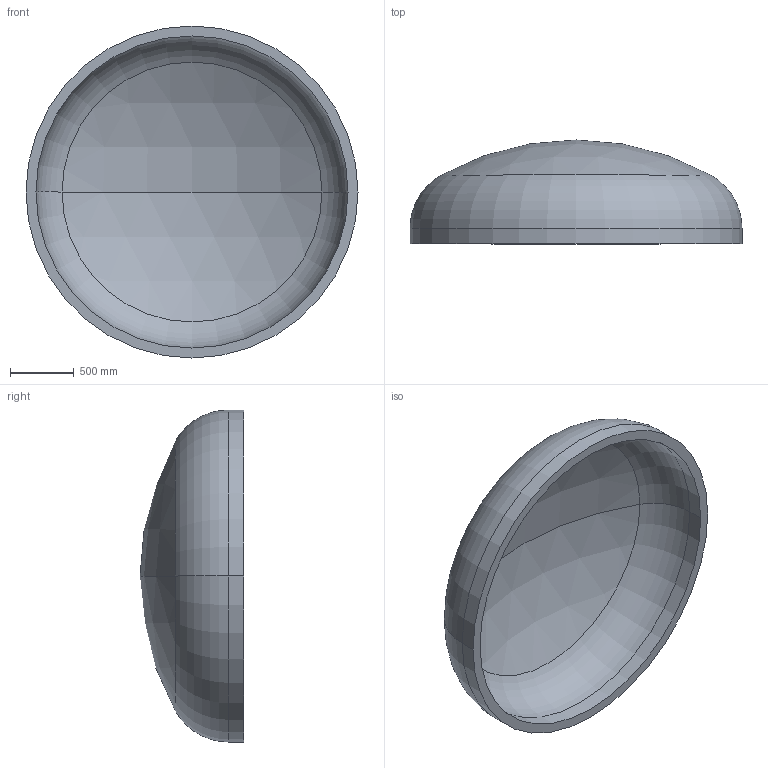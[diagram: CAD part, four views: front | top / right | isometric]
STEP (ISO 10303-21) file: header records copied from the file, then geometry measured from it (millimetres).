
FILE_DESCRIPTION (( 'STEP AP203' ), '1' );
FILE_NAME ('DIN 28013 Korbbogenform_-_Boden DIN 28013 - 2600 x 120 - I - s=78.step', '2016-07-01T16:24:53', ( '' ), ( '' ), 'SwSTEP 2.0', 'SolidWorks 2013', '' );
FILE_SCHEMA (( 'CONFIG_CONTROL_DESIGN' ));
Length unit declared in the file: millimetre
Products named in the file (1): DIN 28013 Korbbogenform_-_Boden DIN 28013 - 2600 x 120 - I - s=78
Bounding box: 2600 x 812.83 x 2600 mm (x, y, z)
Volume: 625562242.3 mm3; surface area: 16670796.3 mm2
Topology: 1 solids, 1 shells, 13 faces, 24 edges, 14 vertices
Faces by surface type: torus 4, cylinder 4, sphere 4, plane 1
Entity records: 407 total; most frequent: DIRECTION 72, CARTESIAN_POINT 52, ORIENTED_EDGE 48, AXIS2_PLACEMENT_3D 34, EDGE_CURVE 24, CIRCLE 20, VERTEX_POINT 14, EDGE_LOOP 14
